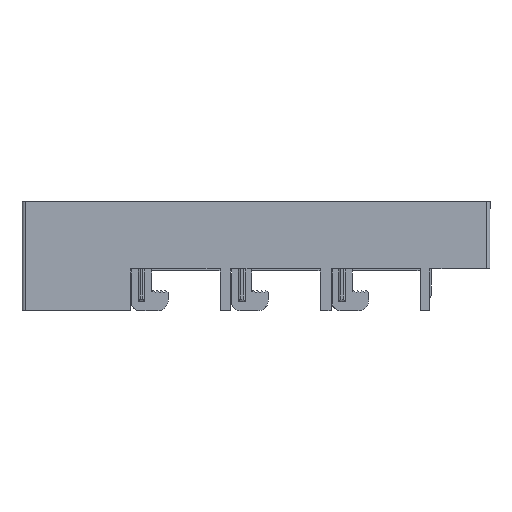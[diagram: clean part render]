
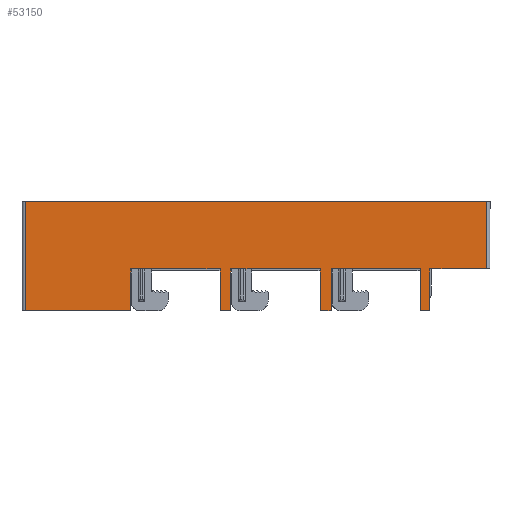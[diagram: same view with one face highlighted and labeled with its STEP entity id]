
A CAD part, left-side view. The second image highlights one B-rep face of the part: STEP entity #53150.
In plain terms, the highlighted planar face has unit normal (-1, 0, 0).
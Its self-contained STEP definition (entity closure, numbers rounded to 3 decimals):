
#241 = VERTEX_POINT ( 'NONE', #84012 ) ;
#348 = ORIENTED_EDGE ( 'NONE', *, *, #11309, .T. ) ;
#1871 = DIRECTION ( 'NONE',  ( 0., 0., -1. ) ) ;
#2497 = VECTOR ( 'NONE', #96752, 1000. ) ;
#2821 = VECTOR ( 'NONE', #96704, 1000. ) ;
#4393 = VECTOR ( 'NONE', #10168, 1000. ) ;
#5826 = VECTOR ( 'NONE', #24211, 1000. ) ;
#7166 = ORIENTED_EDGE ( 'NONE', *, *, #67455, .T. ) ;
#9772 = CARTESIAN_POINT ( 'NONE',  ( 4.571, 41.5, -50. ) ) ;
#10009 = CARTESIAN_POINT ( 'NONE',  ( 4.571, 161.5, -25. ) ) ;
#10168 = DIRECTION ( 'NONE',  ( 0., -1., 0. ) ) ;
#10584 = EDGE_CURVE ( 'NONE', #64194, #47286, #49259, .T. ) ;
#10780 = CARTESIAN_POINT ( 'NONE',  ( 4.571, 36., -50. ) ) ;
#11309 = EDGE_CURVE ( 'NONE', #72147, #79812, #31596, .T. ) ;
#12393 = ORIENTED_EDGE ( 'NONE', *, *, #23640, .T. ) ;
#12787 = EDGE_CURVE ( 'NONE', #47286, #84661, #25849, .T. ) ;
#14197 = DIRECTION ( 'NONE',  ( 0., 0., 1. ) ) ;
#14535 = VECTOR ( 'NONE', #19879, 1000. ) ;
#14760 = DIRECTION ( 'NONE',  ( 0., -1., 0. ) ) ;
#16436 = ORIENTED_EDGE ( 'NONE', *, *, #74129, .T. ) ;
#17620 = CARTESIAN_POINT ( 'NONE',  ( 4.571, 36., -25. ) ) ;
#19879 = DIRECTION ( 'NONE',  ( 0., 1., 0. ) ) ;
#20096 = EDGE_CURVE ( 'NONE', #106919, #48700, #46518, .T. ) ;
#20504 = EDGE_CURVE ( 'NONE', #48700, #27172, #44991, .T. ) ;
#20566 = CARTESIAN_POINT ( 'NONE',  ( 4.571, 95., -25. ) ) ;
#20811 = DIRECTION ( 'NONE',  ( 0., -1., 0. ) ) ;
#21766 = CARTESIAN_POINT ( 'NONE',  ( 4.571, 2., 15.5 ) ) ;
#23477 = EDGE_CURVE ( 'NONE', #52498, #106863, #55158, .T. ) ;
#23640 = EDGE_CURVE ( 'NONE', #241, #85824, #34702, .T. ) ;
#24211 = DIRECTION ( 'NONE',  ( 0., 0., 1. ) ) ;
#24817 = VECTOR ( 'NONE', #72352, 1000. ) ;
#25849 = LINE ( 'NONE', #52438, #74832 ) ;
#26029 = VECTOR ( 'NONE', #20811, 1000. ) ;
#27172 = VERTEX_POINT ( 'NONE', #58805 ) ;
#27220 = CARTESIAN_POINT ( 'NONE',  ( 4.571, 36., -25. ) ) ;
#27680 = CARTESIAN_POINT ( 'NONE',  ( 4.571, 278., 15.5 ) ) ;
#28167 = AXIS2_PLACEMENT_3D ( 'NONE', #30210, #56858, #40083 ) ;
#28206 = DIRECTION ( 'NONE',  ( 0., 0., 1. ) ) ;
#28423 = CARTESIAN_POINT ( 'NONE',  ( 4.571, 2., 15.5 ) ) ;
#28626 = VECTOR ( 'NONE', #95585, 1000. ) ;
#30210 = CARTESIAN_POINT ( 'NONE',  ( 4.571, 280., 15.5 ) ) ;
#31596 = LINE ( 'NONE', #59603, #5826 ) ;
#31832 = VECTOR ( 'NONE', #110335, 1000. ) ;
#32315 = LINE ( 'NONE', #105384, #2497 ) ;
#33671 = CARTESIAN_POINT ( 'NONE',  ( 4.571, 215., -50. ) ) ;
#34573 = VERTEX_POINT ( 'NONE', #10009 ) ;
#34702 = LINE ( 'NONE', #46797, #98536 ) ;
#35404 = VERTEX_POINT ( 'NONE', #91808 ) ;
#35687 = DIRECTION ( 'NONE',  ( 0., 0., 1. ) ) ;
#36282 = PLANE ( 'NONE',  #28167 ) ;
#36318 = CARTESIAN_POINT ( 'NONE',  ( 4.571, 278., 15.5 ) ) ;
#37572 = VERTEX_POINT ( 'NONE', #36318 ) ;
#38359 = VECTOR ( 'NONE', #14760, 1000. ) ;
#38500 = ORIENTED_EDGE ( 'NONE', *, *, #20096, .T. ) ;
#38690 = DIRECTION ( 'NONE',  ( 0., -1., 0. ) ) ;
#39518 = EDGE_CURVE ( 'NONE', #108149, #72147, #64490, .T. ) ;
#40083 = DIRECTION ( 'NONE',  ( 0., 0., -1. ) ) ;
#42319 = ORIENTED_EDGE ( 'NONE', *, *, #52380, .T. ) ;
#44991 = LINE ( 'NONE', #9772, #28626 ) ;
#46518 = LINE ( 'NONE', #62707, #58770 ) ;
#46797 = CARTESIAN_POINT ( 'NONE',  ( 4.571, 95., -50. ) ) ;
#47286 = VERTEX_POINT ( 'NONE', #64013 ) ;
#47881 = LINE ( 'NONE', #27680, #76471 ) ;
#47905 = VERTEX_POINT ( 'NONE', #84706 ) ;
#48637 = EDGE_CURVE ( 'NONE', #34573, #64194, #101373, .T. ) ;
#48700 = VERTEX_POINT ( 'NONE', #77753 ) ;
#48743 = VECTOR ( 'NONE', #14197, 1000. ) ;
#49259 = LINE ( 'NONE', #80282, #24817 ) ;
#49661 = VECTOR ( 'NONE', #28206, 1000. ) ;
#52380 = EDGE_CURVE ( 'NONE', #85824, #106919, #84564, .T. ) ;
#52438 = CARTESIAN_POINT ( 'NONE',  ( 4.571, 155., -50. ) ) ;
#52498 = VERTEX_POINT ( 'NONE', #107318 ) ;
#53150 = ADVANCED_FACE ( 'NONE', ( #67640 ), #36282, .F. ) ;
#53561 = DIRECTION ( 'NONE',  ( 0., 0., 1. ) ) ;
#55158 = LINE ( 'NONE', #10780, #49661 ) ;
#55564 = ORIENTED_EDGE ( 'NONE', *, *, #20504, .T. ) ;
#55910 = ORIENTED_EDGE ( 'NONE', *, *, #48637, .T. ) ;
#56858 = DIRECTION ( 'NONE',  ( 1., 0., 0. ) ) ;
#58770 = VECTOR ( 'NONE', #38690, 1000. ) ;
#58805 = CARTESIAN_POINT ( 'NONE',  ( 4.571, 41.5, -50. ) ) ;
#59603 = CARTESIAN_POINT ( 'NONE',  ( 4.571, 215., -50. ) ) ;
#61290 = EDGE_CURVE ( 'NONE', #27172, #52498, #77764, .T. ) ;
#61525 = LINE ( 'NONE', #100903, #38359 ) ;
#62219 = CARTESIAN_POINT ( 'NONE',  ( 4.571, 36., -50. ) ) ;
#62306 = CARTESIAN_POINT ( 'NONE',  ( 4.571, 95., -50. ) ) ;
#62707 = CARTESIAN_POINT ( 'NONE',  ( 4.571, 95., -25. ) ) ;
#63653 = CARTESIAN_POINT ( 'NONE',  ( 4.571, 0., 15.5 ) ) ;
#63899 = CARTESIAN_POINT ( 'NONE',  ( 4.571, 278., -50. ) ) ;
#64013 = CARTESIAN_POINT ( 'NONE',  ( 4.571, 155., -50. ) ) ;
#64194 = VERTEX_POINT ( 'NONE', #78835 ) ;
#64300 = DIRECTION ( 'NONE',  ( 0., -1., 0. ) ) ;
#64490 = LINE ( 'NONE', #33671, #31832 ) ;
#67169 = CARTESIAN_POINT ( 'NONE',  ( 4.571, 161.5, -50. ) ) ;
#67172 = EDGE_LOOP ( 'NONE', ( #100047, #90136, #90216, #16436, #101074, #348, #74552, #55910, #70901, #86987, #7166, #69532, #12393, #42319, #38500, #55564, #69623, #92221 ) ) ;
#67455 = EDGE_CURVE ( 'NONE', #84661, #47905, #111525, .T. ) ;
#67640 = FACE_OUTER_BOUND ( 'NONE', #67172, .T. ) ;
#67929 = EDGE_CURVE ( 'NONE', #106863, #35404, #96543, .T. ) ;
#69532 = ORIENTED_EDGE ( 'NONE', *, *, #106306, .T. ) ;
#69623 = ORIENTED_EDGE ( 'NONE', *, *, #61290, .T. ) ;
#70901 = ORIENTED_EDGE ( 'NONE', *, *, #10584, .T. ) ;
#72147 = VERTEX_POINT ( 'NONE', #79977 ) ;
#72352 = DIRECTION ( 'NONE',  ( 0., -1., 0. ) ) ;
#74129 = EDGE_CURVE ( 'NONE', #37572, #108149, #47881, .T. ) ;
#74552 = ORIENTED_EDGE ( 'NONE', *, *, #89198, .T. ) ;
#74832 = VECTOR ( 'NONE', #35687, 1000. ) ;
#76227 = CARTESIAN_POINT ( 'NONE',  ( 4.571, 215., -25. ) ) ;
#76471 = VECTOR ( 'NONE', #1871, 1000. ) ;
#77753 = CARTESIAN_POINT ( 'NONE',  ( 4.571, 41.5, -25. ) ) ;
#77764 = LINE ( 'NONE', #62219, #4393 ) ;
#78835 = CARTESIAN_POINT ( 'NONE',  ( 4.571, 161.5, -50. ) ) ;
#79130 = CARTESIAN_POINT ( 'NONE',  ( 4.571, 95., -50. ) ) ;
#79812 = VERTEX_POINT ( 'NONE', #76227 ) ;
#79977 = CARTESIAN_POINT ( 'NONE',  ( 4.571, 215., -50. ) ) ;
#80282 = CARTESIAN_POINT ( 'NONE',  ( 4.571, 155., -50. ) ) ;
#81792 = EDGE_CURVE ( 'NONE', #35404, #85070, #94952, .T. ) ;
#84012 = CARTESIAN_POINT ( 'NONE',  ( 4.571, 101.5, -50. ) ) ;
#84564 = LINE ( 'NONE', #62306, #106151 ) ;
#84661 = VERTEX_POINT ( 'NONE', #86637 ) ;
#84706 = CARTESIAN_POINT ( 'NONE',  ( 4.571, 101.5, -25. ) ) ;
#84959 = DIRECTION ( 'NONE',  ( 0., 0., -1. ) ) ;
#85070 = VERTEX_POINT ( 'NONE', #28423 ) ;
#85112 = VECTOR ( 'NONE', #84959, 1000. ) ;
#85824 = VERTEX_POINT ( 'NONE', #79130 ) ;
#86637 = CARTESIAN_POINT ( 'NONE',  ( 4.571, 155., -25. ) ) ;
#86987 = ORIENTED_EDGE ( 'NONE', *, *, #12787, .T. ) ;
#89198 = EDGE_CURVE ( 'NONE', #79812, #34573, #61525, .T. ) ;
#89601 = CARTESIAN_POINT ( 'NONE',  ( 4.571, 155., -25. ) ) ;
#90136 = ORIENTED_EDGE ( 'NONE', *, *, #81792, .T. ) ;
#90216 = ORIENTED_EDGE ( 'NONE', *, *, #102864, .T. ) ;
#91808 = CARTESIAN_POINT ( 'NONE',  ( 4.571, 2., -25. ) ) ;
#92221 = ORIENTED_EDGE ( 'NONE', *, *, #23477, .T. ) ;
#94952 = LINE ( 'NONE', #21766, #48743 ) ;
#95585 = DIRECTION ( 'NONE',  ( 0., 0., -1. ) ) ;
#96543 = LINE ( 'NONE', #27220, #2821 ) ;
#96704 = DIRECTION ( 'NONE',  ( 0., -1., 0. ) ) ;
#96752 = DIRECTION ( 'NONE',  ( 0., 0., -1. ) ) ;
#98536 = VECTOR ( 'NONE', #64300, 1000. ) ;
#100047 = ORIENTED_EDGE ( 'NONE', *, *, #67929, .T. ) ;
#100903 = CARTESIAN_POINT ( 'NONE',  ( 4.571, 215., -25. ) ) ;
#101074 = ORIENTED_EDGE ( 'NONE', *, *, #39518, .T. ) ;
#101373 = LINE ( 'NONE', #67169, #85112 ) ;
#102864 = EDGE_CURVE ( 'NONE', #85070, #37572, #104122, .T. ) ;
#104122 = LINE ( 'NONE', #63653, #14535 ) ;
#105384 = CARTESIAN_POINT ( 'NONE',  ( 4.571, 101.5, -50. ) ) ;
#106151 = VECTOR ( 'NONE', #53561, 1000. ) ;
#106306 = EDGE_CURVE ( 'NONE', #47905, #241, #32315, .T. ) ;
#106863 = VERTEX_POINT ( 'NONE', #17620 ) ;
#106919 = VERTEX_POINT ( 'NONE', #20566 ) ;
#107318 = CARTESIAN_POINT ( 'NONE',  ( 4.571, 36., -50. ) ) ;
#108149 = VERTEX_POINT ( 'NONE', #63899 ) ;
#110335 = DIRECTION ( 'NONE',  ( 0., -1., 0. ) ) ;
#111525 = LINE ( 'NONE', #89601, #26029 ) ;
